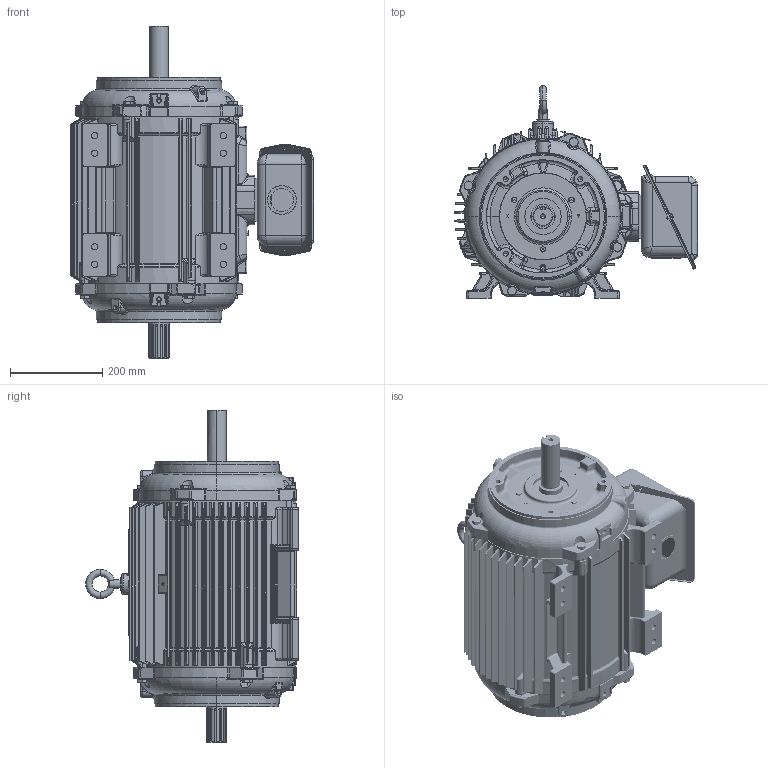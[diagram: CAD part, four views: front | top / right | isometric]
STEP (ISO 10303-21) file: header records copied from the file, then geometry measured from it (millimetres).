
FILE_DESCRIPTION (( 'STEP AP203' ), '1' );
FILE_NAME ('SS312823-1425_RevA.STEP', '2021-08-09T08:14:58', ( '' ), ( '' ), 'SwSTEP 2.0', 'SolidWorks 2018', '' );
FILE_SCHEMA (( 'CONFIG_CONTROL_DESIGN' ));
Length unit declared in the file: inch
Products named in the file (1): SS312823-1425_RevA
Bounding box: 527.65 x 461.92 x 720.73 mm (x, y, z)
Volume: 13320219.9 mm3; surface area: 2807713.8 mm2
Topology: 26 solids, 26 shells, 4754 faces, 11530 edges, 6780 vertices
Faces by surface type: cylinder 1220, bspline 1218, plane 905, torus 541, cone 516, sphere 354
Entity records: 190412 total; most frequent: CARTESIAN_POINT 88895, ORIENTED_EDGE 22650, DIRECTION 19706, EDGE_CURVE 11325, AXIS2_PLACEMENT_3D 8246, VERTEX_POINT 6756, EDGE_LOOP 5011, FACE_OUTER_BOUND 4754
